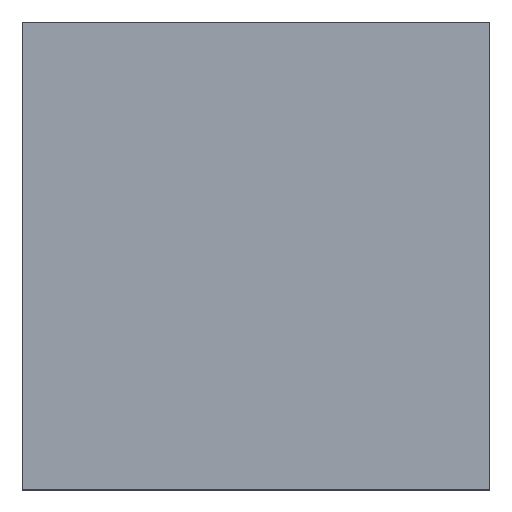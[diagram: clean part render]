
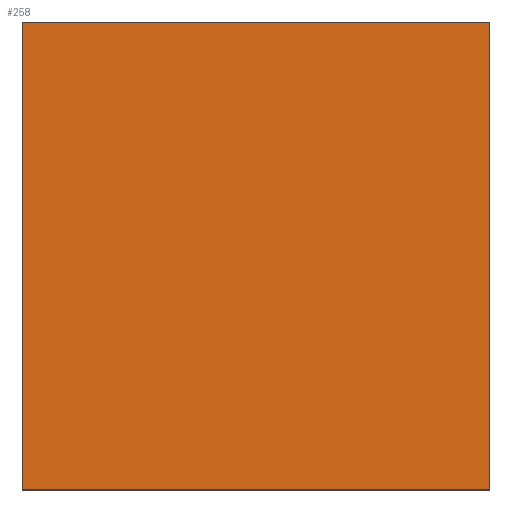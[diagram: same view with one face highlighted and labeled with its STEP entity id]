
A CAD part, top view. The second image highlights one B-rep face of the part: STEP entity #258.
In plain terms, the highlighted planar face has unit normal (0, 0, 1).
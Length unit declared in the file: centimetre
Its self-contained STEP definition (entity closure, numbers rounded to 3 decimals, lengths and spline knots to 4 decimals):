
#12 = VECTOR ( 'NONE', #466, 100. ) ;
#16 = EDGE_CURVE ( 'NONE', #453, #79, #327, .T. ) ;
#33 = AXIS2_PLACEMENT_3D ( 'NONE', #474, #255, #261 ) ;
#48 = CARTESIAN_POINT ( 'NONE',  ( 1000., 1000., 1000. ) ) ;
#79 = VERTEX_POINT ( 'NONE', #206 ) ;
#94 = LINE ( 'NONE', #381, #12 ) ;
#101 = PLANE ( 'NONE',  #33 ) ;
#117 = DIRECTION ( 'NONE',  ( -1., 0., 0. ) ) ;
#136 = EDGE_LOOP ( 'NONE', ( #231, #542, #330, #497 ) ) ;
#154 = EDGE_CURVE ( 'NONE', #184, #453, #507, .T. ) ;
#184 = VERTEX_POINT ( 'NONE', #523 ) ;
#206 = CARTESIAN_POINT ( 'NONE',  ( 0., 1000., 1000. ) ) ;
#217 = LINE ( 'NONE', #299, #517 ) ;
#221 = EDGE_CURVE ( 'NONE', #276, #184, #217, .T. ) ;
#231 = ORIENTED_EDGE ( 'NONE', *, *, #545, .T. ) ;
#248 = DIRECTION ( 'NONE',  ( 0., 1., 0. ) ) ;
#255 = DIRECTION ( 'NONE',  ( 0., 0., 1. ) ) ;
#258 = ADVANCED_FACE ( 'NONE', ( #310 ), #101, .T. ) ;
#261 = DIRECTION ( 'NONE',  ( 1., 0., 0. ) ) ;
#268 = VECTOR ( 'NONE', #117, 100. ) ;
#276 = VERTEX_POINT ( 'NONE', #425 ) ;
#290 = CARTESIAN_POINT ( 'NONE',  ( 1000., 1000., 1000. ) ) ;
#299 = CARTESIAN_POINT ( 'NONE',  ( 0., 0., 1000. ) ) ;
#306 = DIRECTION ( 'NONE',  ( 1., 0., 0. ) ) ;
#310 = FACE_OUTER_BOUND ( 'NONE', #136, .T. ) ;
#327 = LINE ( 'NONE', #366, #268 ) ;
#330 = ORIENTED_EDGE ( 'NONE', *, *, #154, .T. ) ;
#366 = CARTESIAN_POINT ( 'NONE',  ( 0., 1000., 1000. ) ) ;
#381 = CARTESIAN_POINT ( 'NONE',  ( 0., 1000., 1000. ) ) ;
#413 = VECTOR ( 'NONE', #248, 100. ) ;
#425 = CARTESIAN_POINT ( 'NONE',  ( 0., 0., 1000. ) ) ;
#453 = VERTEX_POINT ( 'NONE', #48 ) ;
#466 = DIRECTION ( 'NONE',  ( 0., -1., 0. ) ) ;
#474 = CARTESIAN_POINT ( 'NONE',  ( 0., 0., 1000. ) ) ;
#497 = ORIENTED_EDGE ( 'NONE', *, *, #16, .T. ) ;
#507 = LINE ( 'NONE', #290, #413 ) ;
#517 = VECTOR ( 'NONE', #306, 100. ) ;
#523 = CARTESIAN_POINT ( 'NONE',  ( 1000., 0., 1000. ) ) ;
#542 = ORIENTED_EDGE ( 'NONE', *, *, #221, .T. ) ;
#545 = EDGE_CURVE ( 'NONE', #79, #276, #94, .T. ) ;
